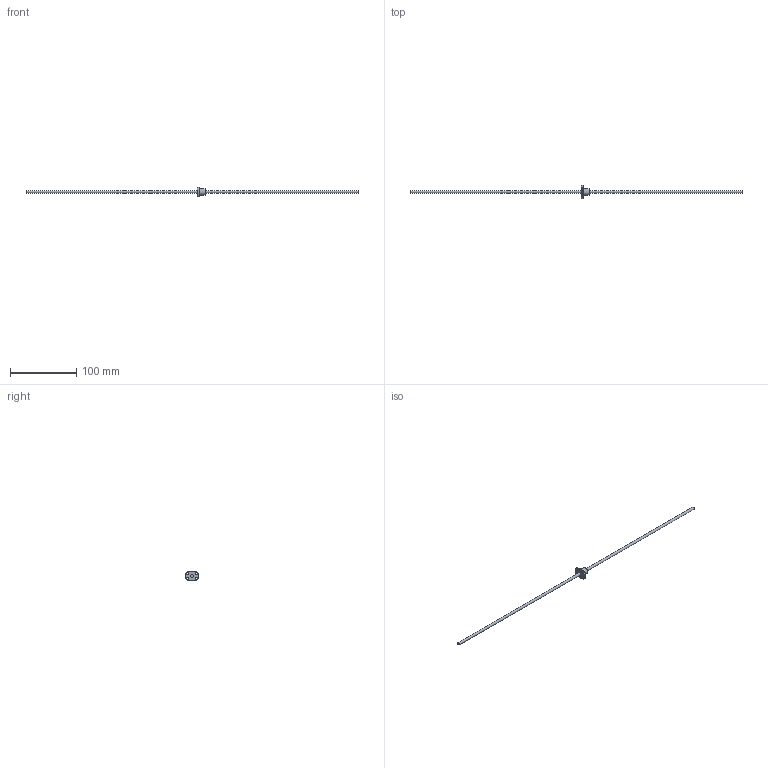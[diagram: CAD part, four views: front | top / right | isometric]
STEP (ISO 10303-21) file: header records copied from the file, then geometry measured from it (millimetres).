
FILE_DESCRIPTION (( 'STEP AP203' ), '1' );
FILE_NAME ('SFK00401.step', '2024-05-30T08:10:37', ( '' ), ( '' ), 'SwSTEP 2.0', 'SolidWorks 2022', '' );
FILE_SCHEMA (( 'CONFIG_CONTROL_DESIGN' ));
Length unit declared in the file: millimetre
Products named in the file (1): SFK00401
Bounding box: 500 x 19.93 x 14 mm (x, y, z)
Volume: 7474.3 mm3; surface area: 7423.8 mm2
Topology: 2 solids, 2 shells, 33 faces, 87 edges, 59 vertices
Faces by surface type: plane 11, cylinder 9, cone 8, torus 5
Full cylindrical faces by diameter (mm): 2.9 x4, 4 x1, 4.4 x1, 10 x1
Entity records: 999 total; most frequent: CARTESIAN_POINT 236, DIRECTION 142, ORIENTED_EDGE 118, AXIS2_PLACEMENT_3D 65, EDGE_LOOP 60, EDGE_CURVE 59, VERTEX_POINT 47, FACE_OUTER_BOUND 41
